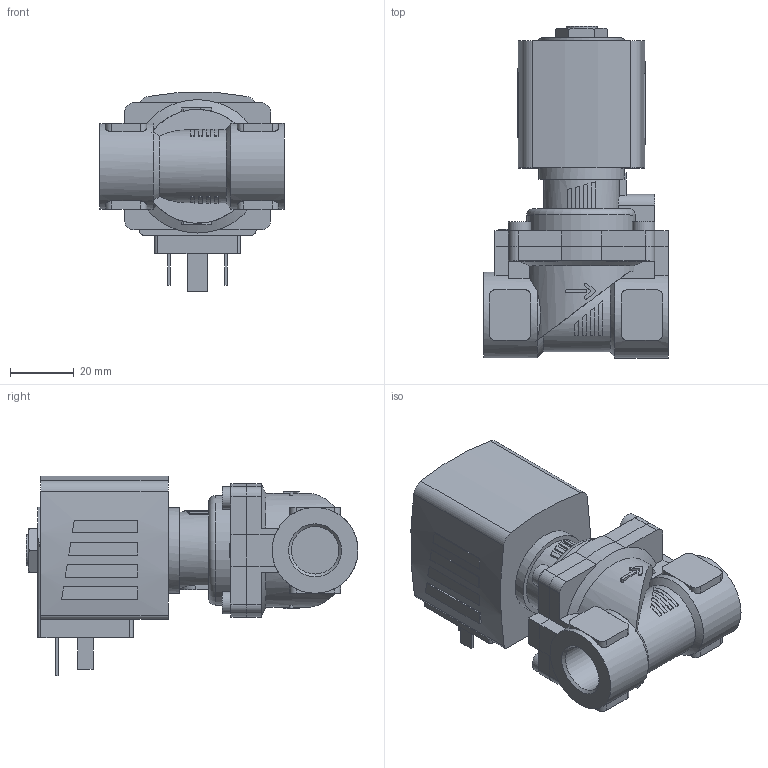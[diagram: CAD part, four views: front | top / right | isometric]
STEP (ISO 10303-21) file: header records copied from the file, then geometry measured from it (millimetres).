
FILE_DESCRIPTION(/* description */ ('STEP AP214'),/* implementation_level */ '2;1');
FILE_NAME(/* name */ '6281-331196-2_2-Way_Solenoid_Valve__Servo-assisted__General_Purpose',/* time_stamp */ '2024-05-20T11:42:47+02:00',/* author */ ('License CC BY-ND 4.0'),/* organization */ ('CADENAS'),/* preprocessor_version */ 'ST-DEVELOPER v19.3',/* originating_system */ 'PARTsolutions',/* authorisation */ ' ');
FILE_SCHEMA (('AUTOMOTIVE_DESIGN {1 0 10303 214 3 1 1}'));
Length unit declared in the file: millimetre
Products named in the file (4): 6281-331196-2/2-Way Solenoid Valve, Servo-assisted, General Purpose; 5281ev130MS2/2-Wege-Magnetventil mit Servomembran-Deckel 42 ; 6213-13G3/8MS-Gehaeuse-; AC10ex-6NA38-Plan-Coil
Assembly tree (3 placements, depth 2):
  6281-331196-2/2-Way Solenoid Valve, Servo-assisted, General Purpose
    5281ev130MS2/2-Wege-Magnetventil mit Servomembran-Deckel 42 
    6213-13G3/8MS-Gehaeuse-
    AC10ex-6NA38-Plan-Coil
Bounding box: 58 x 104.5 x 62.83 mm (x, y, z)
Volume: 141966.4 mm3; surface area: 29973.6 mm2
Topology: 3 solids, 3 shells, 342 faces, 874 edges, 572 vertices
Faces by surface type: plane 237, cylinder 89, cone 15, torus 1
Full cylindrical faces by diameter (mm): 2.013 x1, 7 x4, 9.74 x1, 14.95 x2, 27 x2
Entity records: 11652 total; most frequent: CARTESIAN_POINT 2029, DIRECTION 1736, ORIENTED_EDGE 1706, EDGE_CURVE 853, AXIS2_PLACEMENT_3D 606, VERTEX_POINT 565, LINE 524, VECTOR 524
